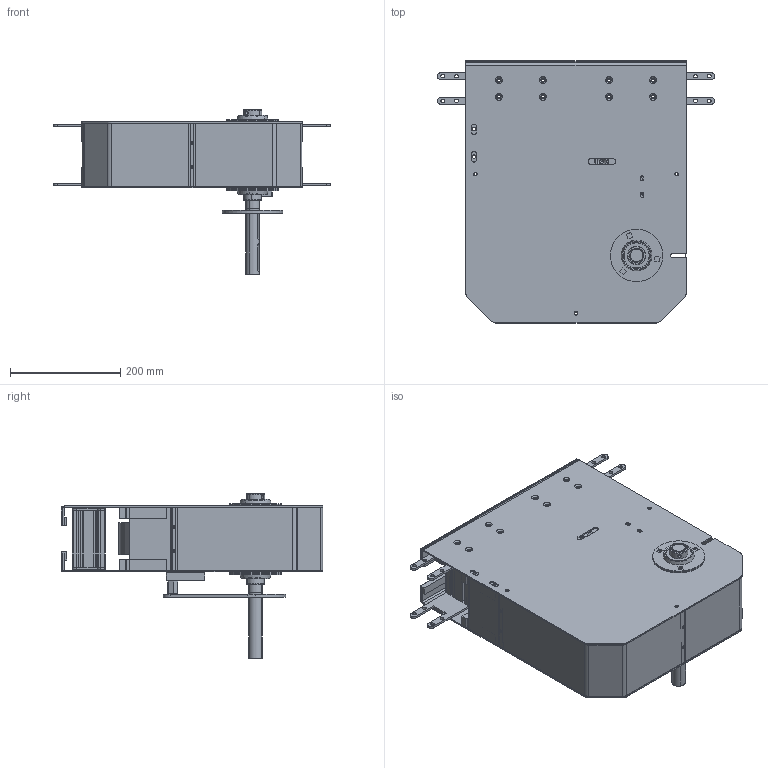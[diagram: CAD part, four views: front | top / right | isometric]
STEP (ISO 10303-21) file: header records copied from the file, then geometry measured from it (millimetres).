
FILE_DESCRIPTION (( 'STEP AP203' ), '1' );
FILE_NAME ('2000.450.963.STEP', '2015-04-15T12:19:20', ( '' ), ( '' ), 'SwSTEP 2.0', 'SolidWorks 2012', '' );
FILE_SCHEMA (( 'CONFIG_CONTROL_DESIGN' ));
Products named in the file (1): 2000.450.963
Bounding box: 503 x 475.5 x 300 mm (x, y, z)
Surface area: 1865238.7 mm2 (no closed solid volume)
Topology: 0 solids, 35 shells, 1783 faces, 4714 edges, 3019 vertices
Faces by surface type: plane 805, cylinder 716, torus 176, cone 70, bspline 16
Entity records: 57011 total; most frequent: CARTESIAN_POINT 10800, DIRECTION 9990, ORIENTED_EDGE 9408, EDGE_CURVE 4708, AXIS2_PLACEMENT_3D 3579, VERTEX_POINT 3019, LINE 2832, VECTOR 2832
